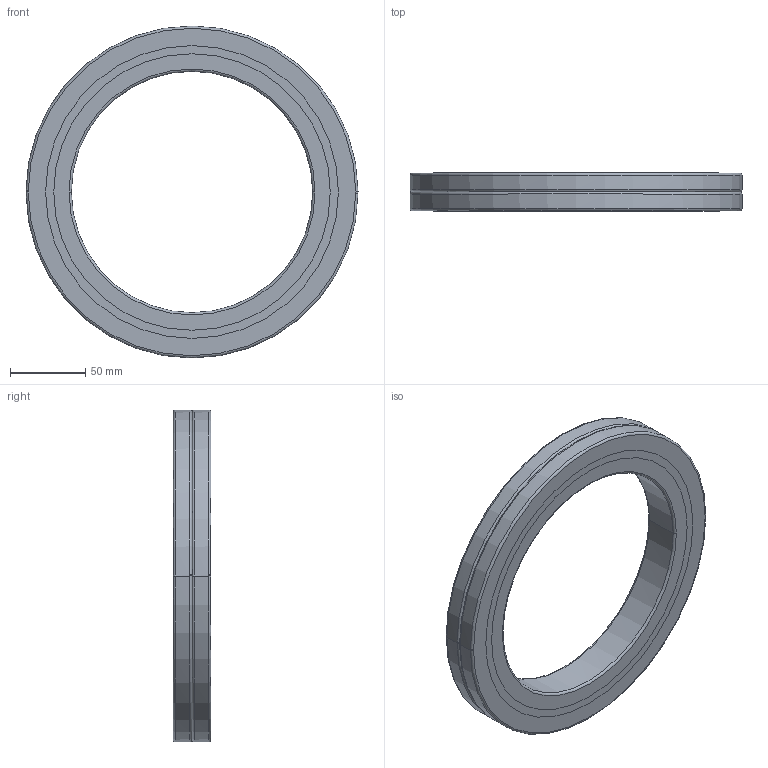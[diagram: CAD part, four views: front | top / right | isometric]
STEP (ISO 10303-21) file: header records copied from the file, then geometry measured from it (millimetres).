
FILE_DESCRIPTION(('no description'),'unknown implementation level');
FILE_NAME('CRBA16025_35.stp',' ',('HIWIN GmbH'),('CADClick - KiM GmbH - www.kimweb.de'),'unknown preprocess','ACIS','unknown authorization');
FILE_SCHEMA(('automotive_design'));
Length unit declared in the file: millimetre
Products named in the file (5): CRBA16025_1; CRBA16025_2; CRBA16025_3; CRBA16025_4; CRBA16025
Bounding box: 220 x 25 x 220 mm (x, y, z)
Volume: 378668.7 mm3; surface area: 120902.5 mm2
Topology: 5 solids, 5 shells, 54 faces, 120 edges, 76 vertices
Faces by surface type: torus 24, cylinder 20, plane 10
Entity records: 3096 total; most frequent: DIRECTION 338, STYLED_ITEM 255, PRESENTATION_STYLE_ASSIGNMENT 255, CARTESIAN_POINT 255, COLOUR_RGB 255, ORIENTED_EDGE 240, AXIS2_PLACEMENT_3D 159, EDGE_CURVE 120
